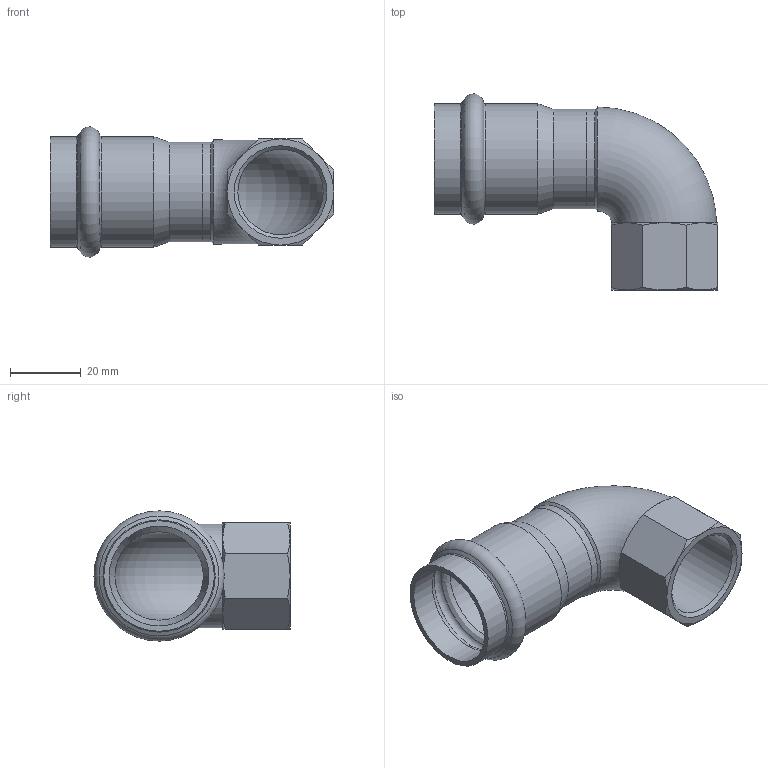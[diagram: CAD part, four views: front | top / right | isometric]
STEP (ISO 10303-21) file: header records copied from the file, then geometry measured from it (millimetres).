
FILE_DESCRIPTION((''),'2;1');
FILE_NAME('G:\Nirosan-Schmiedefeld\Technics\CAD\Bauteile VA\028\69090ig2834(0).stp','2012-04-12T12:53:33',('herberg'),(''),'Autodesk Inventor 2009','Autodesk Inventor 2009','');
FILE_SCHEMA(('AUTOMOTIVE_DESIGN { 1 0 10303 214 1 1 1 1 }'));
Length unit declared in the file: millimetre
Products named in the file (3): 69090ig2834(0); HM_6924328(1); G_69090ig2834(0)
Assembly tree (2 placements, depth 2):
  69090ig2834(0)
    HM_6924328(1)
    G_69090ig2834(0)
Bounding box: 80 x 55.4 x 36.8 mm (x, y, z)
Volume: 17603.3 mm3; surface area: 17982.3 mm2
Topology: 2 solids, 2 shells, 54 faces, 114 edges, 66 vertices
Faces by surface type: cone 23, plane 14, cylinder 8, bspline 5, torus 4
Full cylindrical faces by diameter (mm): 25 x2, 28 x2, 28.2 x2, 31.2 x2
Entity records: 1648 total; most frequent: CARTESIAN_POINT 624, DIRECTION 204, ORIENTED_EDGE 170, AXIS2_PLACEMENT_3D 98, EDGE_CURVE 85, EDGE_LOOP 84, VERTEX_POINT 61, FACE_OUTER_BOUND 54
